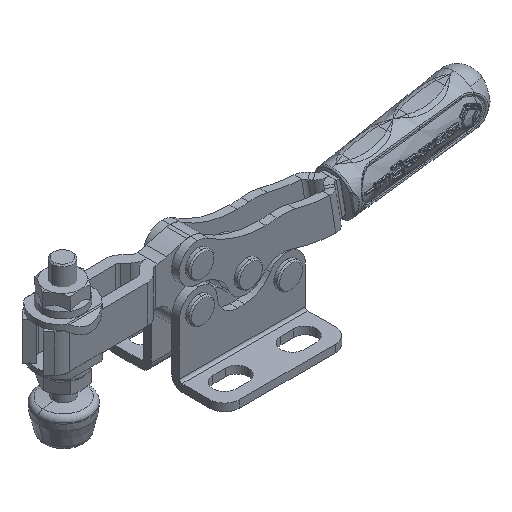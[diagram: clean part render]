
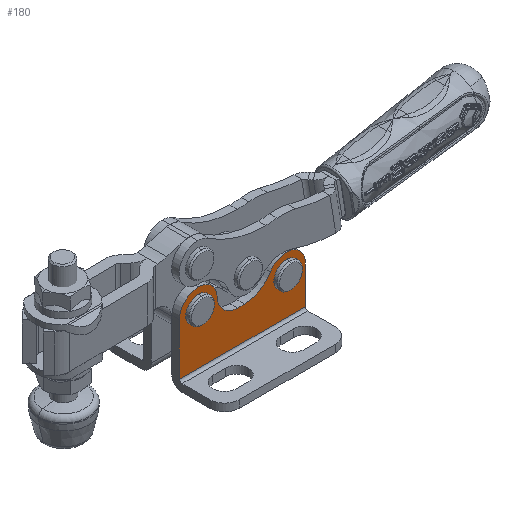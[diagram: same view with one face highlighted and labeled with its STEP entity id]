
A CAD part, isometric view. The second image highlights one B-rep face of the part: STEP entity #180.
In plain terms, the highlighted planar face has unit normal (0, -1, 0).
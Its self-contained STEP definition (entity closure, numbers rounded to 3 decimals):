
#180=ADVANCED_FACE('',(#1610,#1611,#1612),#1613,.F.);
#1610=FACE_OUTER_BOUND('',#4460,.T.);
#1611=FACE_BOUND('',#4461,.T.);
#1612=FACE_BOUND('',#4462,.T.);
#1613=PLANE('',#4463);
#4460=EDGE_LOOP('',(#20200,#20201,#20202,#20203,#20204,#20205,#20206,#20207,#20208,#20209));
#4461=EDGE_LOOP('',(#20210,#20211));
#4462=EDGE_LOOP('',(#20212,#20213));
#4463=AXIS2_PLACEMENT_3D('',#20214,#20215,#20216);
#20200=ORIENTED_EDGE('',*,*,#29023,.T.);
#20201=ORIENTED_EDGE('',*,*,#29024,.T.);
#20202=ORIENTED_EDGE('',*,*,#29016,.T.);
#20203=ORIENTED_EDGE('',*,*,#29025,.T.);
#20204=ORIENTED_EDGE('',*,*,#29026,.F.);
#20205=ORIENTED_EDGE('',*,*,#29027,.F.);
#20206=ORIENTED_EDGE('',*,*,#29028,.F.);
#20207=ORIENTED_EDGE('',*,*,#29020,.T.);
#20208=ORIENTED_EDGE('',*,*,#29029,.T.);
#20209=ORIENTED_EDGE('',*,*,#29030,.F.);
#20210=ORIENTED_EDGE('',*,*,#29031,.F.);
#20211=ORIENTED_EDGE('',*,*,#28995,.F.);
#20212=ORIENTED_EDGE('',*,*,#29032,.F.);
#20213=ORIENTED_EDGE('',*,*,#28983,.F.);
#20214=CARTESIAN_POINT('',(-1.329,-3.55,6.593));
#20215=DIRECTION('',(-0.0,1.0,0.0));
#20216=DIRECTION('',(1.0,0.0,0.0));
#28983=EDGE_CURVE('',#32448,#32446,#32450,.T.);
#28995=EDGE_CURVE('',#32472,#32468,#32474,.T.);
#29016=EDGE_CURVE('',#32515,#32512,#32516,.T.);
#29020=EDGE_CURVE('',#32523,#32520,#32524,.T.);
#29023=EDGE_CURVE('',#32528,#32529,#32530,.T.);
#29024=EDGE_CURVE('',#32529,#32515,#32531,.T.);
#29025=EDGE_CURVE('',#32512,#32532,#32533,.T.);
#29026=EDGE_CURVE('',#32534,#32532,#32535,.T.);
#29027=EDGE_CURVE('',#32536,#32534,#32537,.T.);
#29028=EDGE_CURVE('',#32523,#32536,#32538,.T.);
#29029=EDGE_CURVE('',#32520,#32539,#32540,.T.);
#29030=EDGE_CURVE('',#32528,#32539,#32541,.T.);
#29031=EDGE_CURVE('',#32468,#32472,#32542,.T.);
#29032=EDGE_CURVE('',#32446,#32448,#32543,.T.);
#32446=VERTEX_POINT('',#37742);
#32448=VERTEX_POINT('',#37745);
#32450=CIRCLE('',#37748,2.5);
#32468=VERTEX_POINT('',#37770);
#32472=VERTEX_POINT('',#37775);
#32474=CIRCLE('',#37778,2.5);
#32512=VERTEX_POINT('',#37826);
#32515=VERTEX_POINT('',#37830);
#32516=CIRCLE('',#37831,3.75);
#32520=VERTEX_POINT('',#37836);
#32523=VERTEX_POINT('',#37840);
#32524=CIRCLE('',#37841,3.75);
#32528=VERTEX_POINT('',#37846);
#32529=VERTEX_POINT('',#37847);
#32530=LINE('',#37848,#37849);
#32531=LINE('',#37850,#37851);
#32532=VERTEX_POINT('',#37852);
#32533=CIRCLE('',#37853,3.75);
#32534=VERTEX_POINT('',#37854);
#32535=CIRCLE('',#37855,6.0);
#32536=VERTEX_POINT('',#37856);
#32537=LINE('',#37857,#37858);
#32538=CIRCLE('',#37859,4.);
#32539=VERTEX_POINT('',#37860);
#32540=CIRCLE('',#37861,3.75);
#32541=LINE('',#37862,#37863);
#32542=CIRCLE('',#37864,2.5);
#32543=CIRCLE('',#37865,2.5);
#37742=CARTESIAN_POINT('',(-8.75,-3.55,14.75));
#37745=CARTESIAN_POINT('',(-8.75,-3.55,9.75));
#37748=AXIS2_PLACEMENT_3D('',#60506,#60507,#60508);
#37770=CARTESIAN_POINT('',(8.75,-3.55,12.0));
#37775=CARTESIAN_POINT('',(8.75,-3.55,7.0));
#37778=AXIS2_PLACEMENT_3D('',#60530,#60531,#60532);
#37826=CARTESIAN_POINT('',(8.75,-3.55,13.25));
#37830=CARTESIAN_POINT('',(12.5,-3.55,9.5));
#37831=AXIS2_PLACEMENT_3D('',#60571,#60572,#60573);
#37836=CARTESIAN_POINT('',(-8.75,-3.55,16.));
#37840=CARTESIAN_POINT('',(-5.002,-3.55,12.371));
#37841=AXIS2_PLACEMENT_3D('',#60579,#60580,#60581);
#37846=CARTESIAN_POINT('',(-12.5,-3.55,2.0));
#37847=CARTESIAN_POINT('',(12.5,-3.55,2.0));
#37848=CARTESIAN_POINT('',(-1.329,-3.55,2.0));
#37849=VECTOR('',#60586,1.0);
#37850=CARTESIAN_POINT('',(12.5,-3.55,0.0));
#37851=VECTOR('',#60587,1.0);
#37852=CARTESIAN_POINT('',(5.531,-3.55,11.423));
#37853=AXIS2_PLACEMENT_3D('',#60588,#60589,#60590);
#37854=CARTESIAN_POINT('',(0.38,-3.55,8.5));
#37855=AXIS2_PLACEMENT_3D('',#60591,#60592,#60593);
#37856=CARTESIAN_POINT('',(-1.004,-3.55,8.5));
#37857=CARTESIAN_POINT('',(-1.004,-3.55,8.5));
#37858=VECTOR('',#60594,1.0);
#37859=AXIS2_PLACEMENT_3D('',#60595,#60596,#60597);
#37860=CARTESIAN_POINT('',(-12.5,-3.55,12.25));
#37861=AXIS2_PLACEMENT_3D('',#60598,#60599,#60600);
#37862=CARTESIAN_POINT('',(-12.5,-3.55,0.0));
#37863=VECTOR('',#60601,1.0);
#37864=AXIS2_PLACEMENT_3D('',#60602,#60603,#60604);
#37865=AXIS2_PLACEMENT_3D('',#60605,#60606,#60607);
#60506=CARTESIAN_POINT('',(-8.75,-3.55,12.25));
#60507=DIRECTION('',(0.0,-1.0,0.0));
#60508=DIRECTION('',(0.0,0.0,1.0));
#60530=CARTESIAN_POINT('',(8.75,-3.55,9.5));
#60531=DIRECTION('',(0.0,-1.0,0.0));
#60532=DIRECTION('',(0.0,0.0,1.0));
#60571=CARTESIAN_POINT('',(8.75,-3.55,9.5));
#60572=DIRECTION('',(0.0,-1.0,0.0));
#60573=DIRECTION('',(1.0,0.0,0.0));
#60579=CARTESIAN_POINT('',(-8.75,-3.55,12.25));
#60580=DIRECTION('',(0.0,-1.0,0.0));
#60581=DIRECTION('',(1.0,0.0,0.0));
#60586=DIRECTION('',(1.0,0.0,0.0));
#60587=DIRECTION('',(0.0,0.0,1.0));
#60588=CARTESIAN_POINT('',(8.75,-3.55,9.5));
#60589=DIRECTION('',(0.0,-1.0,0.0));
#60590=DIRECTION('',(1.0,0.0,0.0));
#60591=CARTESIAN_POINT('',(0.38,-3.55,14.5));
#60592=DIRECTION('',(0.0,-1.0,0.0));
#60593=DIRECTION('',(1.0,0.0,0.0));
#60594=DIRECTION('',(1.0,0.0,0.0));
#60595=CARTESIAN_POINT('',(-1.004,-3.55,12.5));
#60596=DIRECTION('',(0.0,-1.0,0.0));
#60597=DIRECTION('',(1.0,0.0,0.0));
#60598=CARTESIAN_POINT('',(-8.75,-3.55,12.25));
#60599=DIRECTION('',(0.0,-1.0,0.0));
#60600=DIRECTION('',(1.0,0.0,0.0));
#60601=DIRECTION('',(0.0,0.0,1.0));
#60602=CARTESIAN_POINT('',(8.75,-3.55,9.5));
#60603=DIRECTION('',(0.0,-1.0,0.0));
#60604=DIRECTION('',(0.0,0.0,1.0));
#60605=CARTESIAN_POINT('',(-8.75,-3.55,12.25));
#60606=DIRECTION('',(0.0,-1.0,0.0));
#60607=DIRECTION('',(0.0,0.0,1.0));
